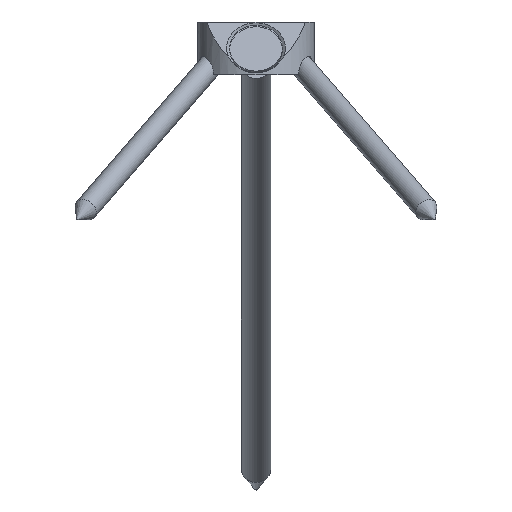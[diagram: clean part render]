
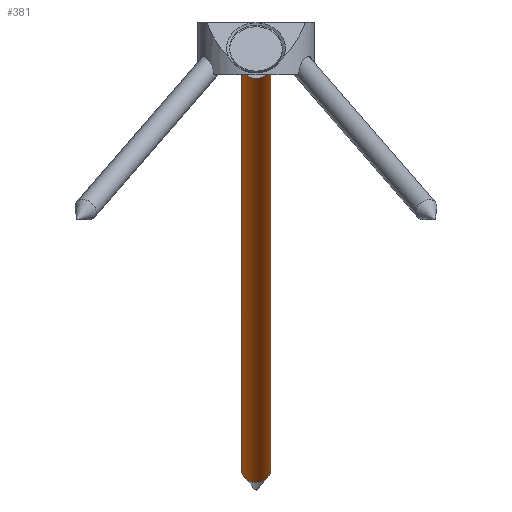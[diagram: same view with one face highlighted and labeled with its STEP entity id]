
A CAD part, front view. The second image highlights one B-rep face of the part: STEP entity #381.
In plain terms, the highlighted cylindrical face has radius 5 mm (diameter 10 mm), a full revolution.
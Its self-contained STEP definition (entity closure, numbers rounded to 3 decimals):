
#88=CIRCLE('',#482,5.);
#89=CIRCLE('',#484,5.);
#162=ORIENTED_EDGE('',*,*,#203,.T.);
#163=ORIENTED_EDGE('',*,*,#202,.F.);
#202=EDGE_CURVE('',#235,#235,#88,.T.);
#203=EDGE_CURVE('',#236,#236,#89,.T.);
#235=VERTEX_POINT('',#765);
#236=VERTEX_POINT('',#768);
#288=EDGE_LOOP('',(#162));
#289=EDGE_LOOP('',(#163));
#339=FACE_BOUND('',#288,.T.);
#340=FACE_BOUND('',#289,.T.);
#355=CYLINDRICAL_SURFACE('',#483,5.);
#381=ADVANCED_FACE('',(#339,#340),#355,.T.);
#482=AXIS2_PLACEMENT_3D('',#764,#606,#607);
#483=AXIS2_PLACEMENT_3D('',#766,#608,#609);
#484=AXIS2_PLACEMENT_3D('',#767,#610,#611);
#606=DIRECTION('',(0.,1.,0.));
#607=DIRECTION('',(0.,0.,1.));
#608=DIRECTION('',(0.,1.,0.));
#609=DIRECTION('',(0.,0.,1.));
#610=DIRECTION('',(0.,1.,0.));
#611=DIRECTION('',(0.,0.,1.));
#764=CARTESIAN_POINT('',(0.,42.,0.));
#765=CARTESIAN_POINT('',(0.,42.,5.));
#766=CARTESIAN_POINT('',(0.,54.,0.));
#767=CARTESIAN_POINT('',(0.,-233.,0.));
#768=CARTESIAN_POINT('',(0.,-233.,5.));
